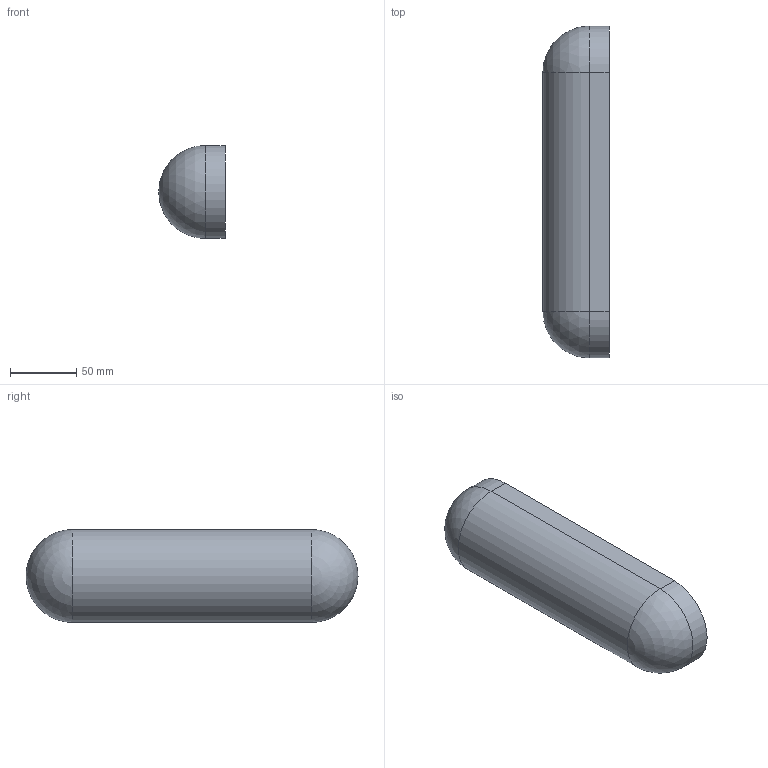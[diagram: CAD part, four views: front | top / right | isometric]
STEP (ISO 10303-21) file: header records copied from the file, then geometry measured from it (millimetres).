
FILE_DESCRIPTION(('STEP AP242'), '1');
FILE_NAME('Êðûøêà ôèêñàòîðà', '', ('UNSPECIFIED'), ('UNSPECIFIED'), 'C3D Converter', 'C3D Toolkit', '');
FILE_SCHEMA(('AP242_MANAGED_MODEL_BASED_3D_ENGINEERING_MIM_LF { 1 0 10303 442 1 1 4 }'));
Length unit declared in the file: millimetre
Bounding box: 50 x 250 x 70 mm (x, y, z)
Volume: 607486.3 mm3; surface area: 60175.9 mm2
Topology: 1 solids, 1 shells, 12 faces, 24 edges, 14 vertices
Faces by surface type: cylinder 5, plane 5, sphere 2
Full cylindrical faces by diameter (mm): 40 x2
Entity records: 332 total; most frequent: DIRECTION 58, CARTESIAN_POINT 47, ORIENTED_EDGE 40, AXIS2_PLACEMENT_3D 25, EDGE_CURVE 20, EDGE_LOOP 16, VERTEX_POINT 14, ADVANCED_FACE 12
